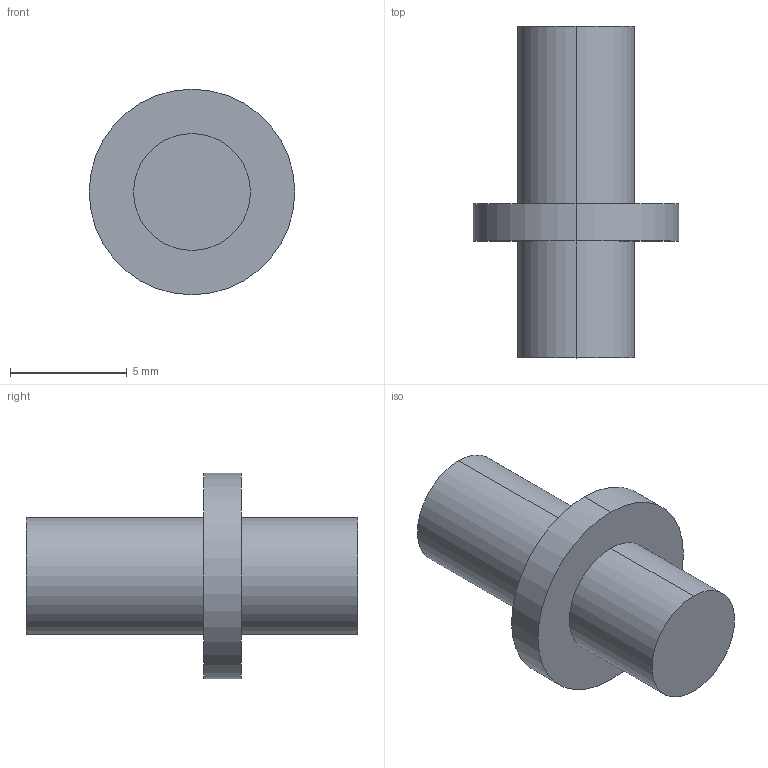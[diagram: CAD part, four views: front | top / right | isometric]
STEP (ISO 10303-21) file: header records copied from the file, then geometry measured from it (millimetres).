
FILE_DESCRIPTION (( 'STEP AP203' ), '1' );
FILE_NAME ('B12-05014.STEP', '2024-07-31T00:28:46', ( '' ), ( '' ), 'SwSTEP 2.0', 'SolidWorks 2021', '' );
FILE_SCHEMA (( 'CONFIG_CONTROL_DESIGN' ));
Length unit declared in the file: millimetre
Products named in the file (1): B12-05014
Bounding box: 8.8 x 14.2 x 8.8 mm (x, y, z)
Volume: 344.7 mm3; surface area: 363.8 mm2
Topology: 1 solids, 1 shells, 10 faces, 18 edges, 12 vertices
Faces by surface type: cylinder 6, plane 4
Entity records: 331 total; most frequent: DIRECTION 52, CARTESIAN_POINT 41, ORIENTED_EDGE 36, AXIS2_PLACEMENT_3D 23, EDGE_CURVE 18, EDGE_LOOP 12, CIRCLE 12, VERTEX_POINT 12
